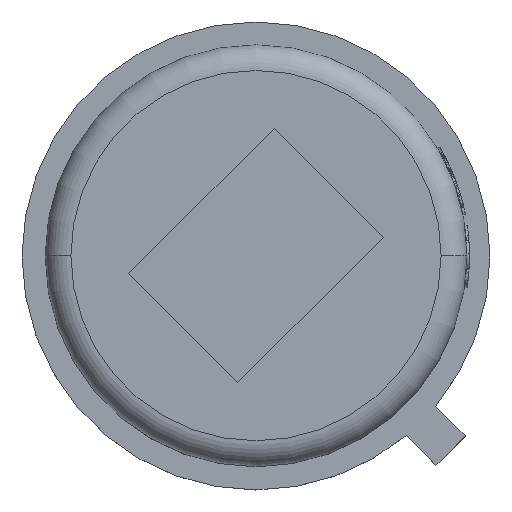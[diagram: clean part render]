
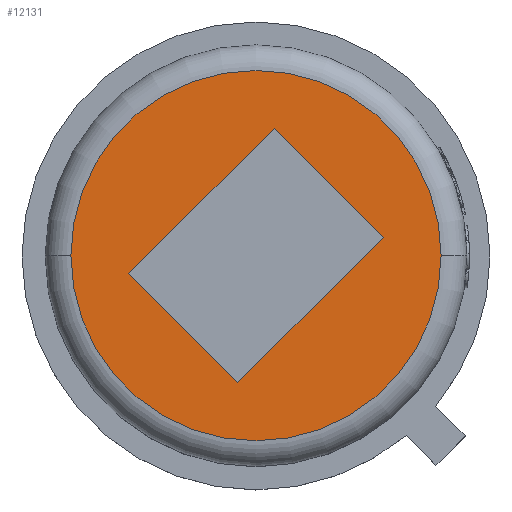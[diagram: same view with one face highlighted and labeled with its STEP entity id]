
A CAD part, top view. The second image highlights one B-rep face of the part: STEP entity #12131.
In plain terms, the highlighted planar face has unit normal (0, 0, 1).
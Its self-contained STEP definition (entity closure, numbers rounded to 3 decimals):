
#177 = EDGE_CURVE ( 'NONE', #8467, #7135, #7357, .T. ) ;
#693 = ORIENTED_EDGE ( 'NONE', *, *, #177, .F. ) ;
#903 = AXIS2_PLACEMENT_3D ( 'NONE', #14781, #9866, #7228 ) ;
#997 = ORIENTED_EDGE ( 'NONE', *, *, #8605, .F. ) ;
#1033 = LINE ( 'NONE', #11031, #8671 ) ;
#1112 = VECTOR ( 'NONE', #12419, 1000. ) ;
#1194 = DIRECTION ( 'NONE',  ( 0., 0., 1. ) ) ;
#1741 = VECTOR ( 'NONE', #12630, 1000. ) ;
#1761 = CARTESIAN_POINT ( 'NONE',  ( 0., 0., 4.5 ) ) ;
#1787 = CARTESIAN_POINT ( 'NONE',  ( -0.354, -2.475, 4.5 ) ) ;
#2482 = AXIS2_PLACEMENT_3D ( 'NONE', #1761, #2820, #7731 ) ;
#2820 = DIRECTION ( 'NONE',  ( 0., 0., 1. ) ) ;
#3641 = DIRECTION ( 'NONE',  ( 1., 0., 0. ) ) ;
#3684 = CARTESIAN_POINT ( 'NONE',  ( -2.475, -0.354, 4.5 ) ) ;
#4241 = VECTOR ( 'NONE', #7143, 1000. ) ;
#4405 = CARTESIAN_POINT ( 'NONE',  ( -2.475, -0.354, 4.5 ) ) ;
#4791 = DIRECTION ( 'NONE',  ( -0.707, 0.707, 0. ) ) ;
#5137 = VERTEX_POINT ( 'NONE', #12054 ) ;
#5372 = CIRCLE ( 'NONE', #903, 3.6 ) ;
#5523 = FACE_BOUND ( 'NONE', #13809, .T. ) ;
#5754 = VERTEX_POINT ( 'NONE', #8463 ) ;
#5757 = ORIENTED_EDGE ( 'NONE', *, *, #7902, .F. ) ;
#7135 = VERTEX_POINT ( 'NONE', #10544 ) ;
#7143 = DIRECTION ( 'NONE',  ( 0.707, -0.707, 0. ) ) ;
#7228 = DIRECTION ( 'NONE',  ( 1., 0., 0. ) ) ;
#7357 = LINE ( 'NONE', #9904, #1741 ) ;
#7412 = CARTESIAN_POINT ( 'NONE',  ( 0.354, 2.475, 4.5 ) ) ;
#7731 = DIRECTION ( 'NONE',  ( 1., 0., 0. ) ) ;
#7902 = EDGE_CURVE ( 'NONE', #7135, #13919, #1033, .T. ) ;
#8463 = CARTESIAN_POINT ( 'NONE',  ( 3.6, 0., 4.5 ) ) ;
#8467 = VERTEX_POINT ( 'NONE', #1787 ) ;
#8605 = EDGE_CURVE ( 'NONE', #13919, #10110, #12182, .T. ) ;
#8671 = VECTOR ( 'NONE', #4791, 1000. ) ;
#8729 = CARTESIAN_POINT ( 'NONE',  ( 0., 0., 4.5 ) ) ;
#8973 = CARTESIAN_POINT ( 'NONE',  ( 0.354, 2.475, 4.5 ) ) ;
#9797 = ORIENTED_EDGE ( 'NONE', *, *, #14424, .F. ) ;
#9866 = DIRECTION ( 'NONE',  ( 0., 0., 1. ) ) ;
#9904 = CARTESIAN_POINT ( 'NONE',  ( 2.475, 0.354, 4.5 ) ) ;
#10110 = VERTEX_POINT ( 'NONE', #3684 ) ;
#10385 = EDGE_CURVE ( 'NONE', #5137, #5754, #10454, .T. ) ;
#10454 = CIRCLE ( 'NONE', #11501, 3.6 ) ;
#10544 = CARTESIAN_POINT ( 'NONE',  ( 2.475, 0.354, 4.5 ) ) ;
#11031 = CARTESIAN_POINT ( 'NONE',  ( 0.354, 2.475, 4.5 ) ) ;
#11348 = EDGE_LOOP ( 'NONE', ( #15702, #12020 ) ) ;
#11501 = AXIS2_PLACEMENT_3D ( 'NONE', #8729, #1194, #3641 ) ;
#12020 = ORIENTED_EDGE ( 'NONE', *, *, #10385, .T. ) ;
#12037 = EDGE_CURVE ( 'NONE', #5754, #5137, #5372, .T. ) ;
#12054 = CARTESIAN_POINT ( 'NONE',  ( -3.6, 0., 4.5 ) ) ;
#12131 = ADVANCED_FACE ( 'NONE', ( #5523, #15291 ), #15378, .T. ) ;
#12182 = LINE ( 'NONE', #7412, #1112 ) ;
#12419 = DIRECTION ( 'NONE',  ( -0.707, -0.707, 0. ) ) ;
#12630 = DIRECTION ( 'NONE',  ( 0.707, 0.707, 0. ) ) ;
#13346 = LINE ( 'NONE', #4405, #4241 ) ;
#13809 = EDGE_LOOP ( 'NONE', ( #997, #5757, #693, #9797 ) ) ;
#13919 = VERTEX_POINT ( 'NONE', #8973 ) ;
#14424 = EDGE_CURVE ( 'NONE', #10110, #8467, #13346, .T. ) ;
#14781 = CARTESIAN_POINT ( 'NONE',  ( 0., 0., 4.5 ) ) ;
#15291 = FACE_OUTER_BOUND ( 'NONE', #11348, .T. ) ;
#15378 = PLANE ( 'NONE',  #2482 ) ;
#15702 = ORIENTED_EDGE ( 'NONE', *, *, #12037, .T. ) ;
